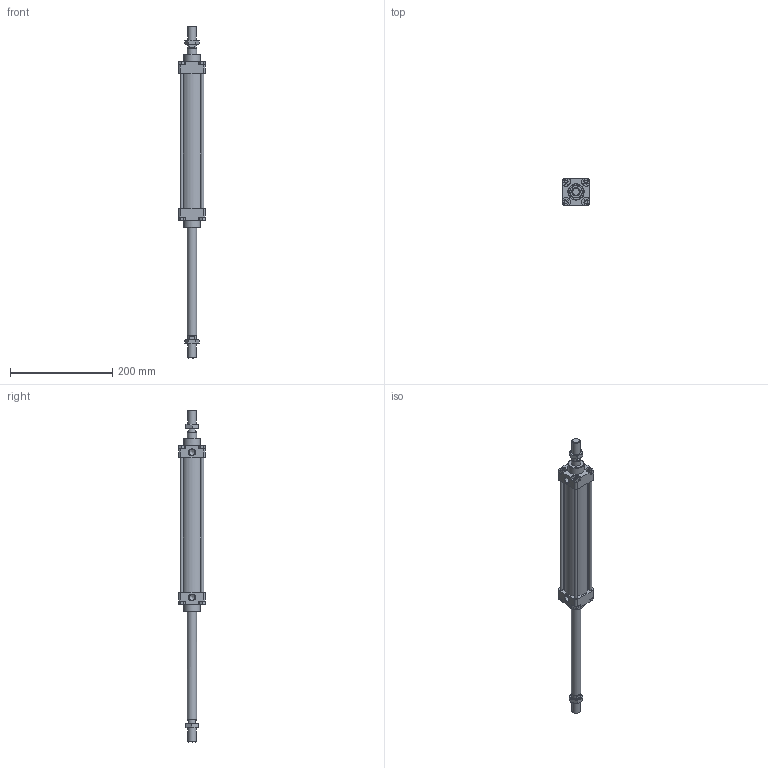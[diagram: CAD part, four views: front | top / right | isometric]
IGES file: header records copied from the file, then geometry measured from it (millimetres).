
Global section: file name: 1303_040_0200_02A; native system: Autodesk Inventor 2014; preprocessor: unknown; author: A. Manieri; date: 20161123.144250; units: millimetre
Bounding box: 52 x 52 x 650 mm (x, y, z)
Volume: 462788.6 mm3; surface area: 169722.2 mm2
Topology: 10 solids, 10 shells, 189 faces, 471 edges, 314 vertices
Faces by surface type: bspline 189
